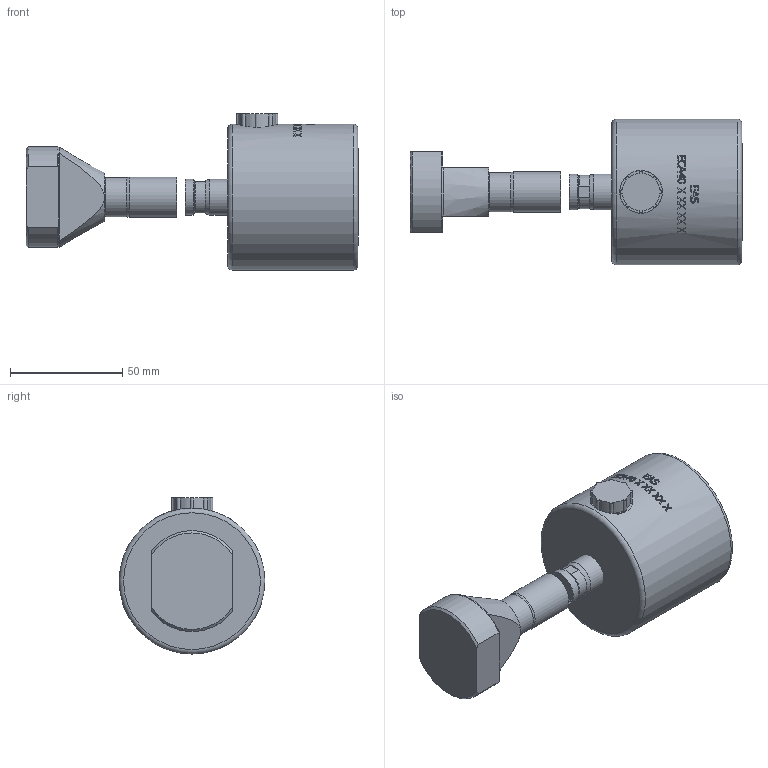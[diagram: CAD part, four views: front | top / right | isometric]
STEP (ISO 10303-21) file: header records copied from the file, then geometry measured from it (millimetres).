
FILE_DESCRIPTION(/* description */ (''),/* implementation_level */ '2;1');
FILE_NAME(/* name */ 'S:\EASCN Vault\Designs\Standard Part\T-SLOT\PULL CYLINDERS\ECA-40\ECA-40-22-XX_(20200416).stp',/* time_stamp */ '2020-04-16T13:20:45+08:00',/* author */ ('yue.yang'),/* organization */ (''),/* preprocessor_version */ 'ST-DEVELOPER v17',/* originating_system */ 'Autodesk Inventor 2019',/* authorisation */ '');
FILE_SCHEMA (('AUTOMOTIVE_DESIGN { 1 0 10303 214 3 1 1 }'));
Length unit declared in the file: millimetre
Products named in the file (1): ECA-40-22-XX_Shrinkwrap_1
Bounding box: 148 x 65 x 69.6 mm (x, y, z)
Volume: 281395 mm3; surface area: 44206.4 mm2
Topology: 6 solids, 6 shells, 317 faces, 861 edges, 583 vertices
Faces by surface type: plane 113, bspline 106, cylinder 64, cone 22, torus 12
Full cylindrical faces by diameter (mm): 3.6 x2, 10.1 x1, 10.8 x1, 11.445 x1, 12 x1, 13.157 x1, 13.5 x1, 15.475 x1, 15.975 x1, 16 x2, 17.5 x1, 18 x1, 24.6 x1, 28 x1, 33 x1, 34 x1, 39.9 x2, 45 x1, 65 x1
Entity records: 29400 total; most frequent: CARTESIAN_POINT 21676, ORIENTED_EDGE 1718, DIRECTION 1225, EDGE_CURVE 859, VERTEX_POINT 583, AXIS2_PLACEMENT_3D 470, EDGE_LOOP 350, FACE_OUTER_BOUND 317
